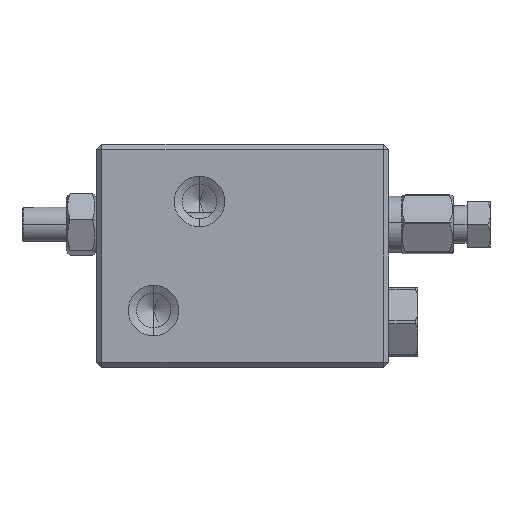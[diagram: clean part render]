
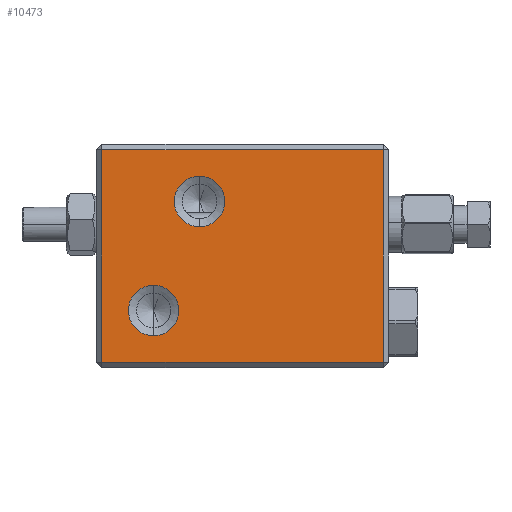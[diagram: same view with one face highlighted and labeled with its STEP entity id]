
A CAD part, left-side view. The second image highlights one B-rep face of the part: STEP entity #10473.
In plain terms, the highlighted planar face has unit normal (-1, 0, 0).
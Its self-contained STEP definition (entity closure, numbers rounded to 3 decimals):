
#90 = VERTEX_POINT ( 'NONE', #425 ) ;
#425 = CARTESIAN_POINT ( 'NONE',  ( -41., 15.5, 5.6 ) ) ;
#529 = ORIENTED_EDGE ( 'NONE', *, *, #7022, .F. ) ;
#924 = AXIS2_PLACEMENT_3D ( 'NONE', #20627, #5486, #2359 ) ;
#1355 = CARTESIAN_POINT ( 'NONE',  ( -41., 15.5, 14.4 ) ) ;
#1927 = VECTOR ( 'NONE', #21119, 1000. ) ;
#2329 = DIRECTION ( 'NONE',  ( 0., 0., 1. ) ) ;
#2359 = DIRECTION ( 'NONE',  ( 0., 0., -1. ) ) ;
#2510 = CIRCLE ( 'NONE', #3276, 4.4 ) ;
#3276 = AXIS2_PLACEMENT_3D ( 'NONE', #19664, #4718, #9610 ) ;
#3686 = CIRCLE ( 'NONE', #20469, 4.4 ) ;
#3885 = ORIENTED_EDGE ( 'NONE', *, *, #18063, .T. ) ;
#4037 = CARTESIAN_POINT ( 'NONE',  ( -41., -24.5, 39. ) ) ;
#4718 = DIRECTION ( 'NONE',  ( -1., 0., 0. ) ) ;
#5486 = DIRECTION ( 'NONE',  ( 1., 0., 0. ) ) ;
#5498 = CARTESIAN_POINT ( 'NONE',  ( -41., 15.5, 10. ) ) ;
#5655 = FACE_BOUND ( 'NONE', #11181, .T. ) ;
#6050 = DIRECTION ( 'NONE',  ( 0., 1., 0. ) ) ;
#6287 = AXIS2_PLACEMENT_3D ( 'NONE', #10536, #12200, #2329 ) ;
#6577 = ORIENTED_EDGE ( 'NONE', *, *, #12326, .T. ) ;
#6623 = LINE ( 'NONE', #4037, #12256 ) ;
#6841 = CARTESIAN_POINT ( 'NONE',  ( -41., 7.5, 33.4 ) ) ;
#6912 = CARTESIAN_POINT ( 'NONE',  ( -41., 24.5, 39. ) ) ;
#6984 = DIRECTION ( 'NONE',  ( 0., 0., -1. ) ) ;
#7022 = EDGE_CURVE ( 'NONE', #20990, #11988, #11848, .T. ) ;
#7102 = AXIS2_PLACEMENT_3D ( 'NONE', #5498, #15150, #18614 ) ;
#7354 = LINE ( 'NONE', #6912, #16883 ) ;
#8045 = CARTESIAN_POINT ( 'NONE',  ( -41., 25.5, 1. ) ) ;
#8721 = FACE_BOUND ( 'NONE', #12025, .T. ) ;
#8842 = PLANE ( 'NONE',  #924 ) ;
#9003 = VERTEX_POINT ( 'NONE', #16446 ) ;
#9591 = DIRECTION ( 'NONE',  ( -1., 0., 0. ) ) ;
#9610 = DIRECTION ( 'NONE',  ( 0., 0., 1. ) ) ;
#10473 = ADVANCED_FACE ( 'NONE', ( #10518, #8721, #5655 ), #8842, .F. ) ;
#10518 = FACE_OUTER_BOUND ( 'NONE', #11178, .T. ) ;
#10536 = CARTESIAN_POINT ( 'NONE',  ( -41., 7.5, 29. ) ) ;
#10672 = CARTESIAN_POINT ( 'NONE',  ( -41., 7.5, 24.6 ) ) ;
#11178 = EDGE_LOOP ( 'NONE', ( #6577, #19021, #11511, #3885 ) ) ;
#11181 = EDGE_LOOP ( 'NONE', ( #12539, #14893 ) ) ;
#11214 = LINE ( 'NONE', #8045, #1927 ) ;
#11315 = EDGE_CURVE ( 'NONE', #11988, #20990, #2510, .T. ) ;
#11338 = VERTEX_POINT ( 'NONE', #1355 ) ;
#11511 = ORIENTED_EDGE ( 'NONE', *, *, #18871, .T. ) ;
#11691 = ORIENTED_EDGE ( 'NONE', *, *, #11315, .F. ) ;
#11848 = CIRCLE ( 'NONE', #6287, 4.4 ) ;
#11988 = VERTEX_POINT ( 'NONE', #6841 ) ;
#12025 = EDGE_LOOP ( 'NONE', ( #11691, #529 ) ) ;
#12200 = DIRECTION ( 'NONE',  ( -1., 0., 0. ) ) ;
#12256 = VECTOR ( 'NONE', #17252, 1000. ) ;
#12326 = EDGE_CURVE ( 'NONE', #9003, #21081, #20299, .T. ) ;
#12539 = ORIENTED_EDGE ( 'NONE', *, *, #15554, .F. ) ;
#12585 = CARTESIAN_POINT ( 'NONE',  ( -41., 25.5, 38. ) ) ;
#12960 = CARTESIAN_POINT ( 'NONE',  ( -41., 24.5, 1. ) ) ;
#13914 = EDGE_CURVE ( 'NONE', #21081, #16270, #7354, .T. ) ;
#14893 = ORIENTED_EDGE ( 'NONE', *, *, #17870, .F. ) ;
#15150 = DIRECTION ( 'NONE',  ( -1., 0., 0. ) ) ;
#15554 = EDGE_CURVE ( 'NONE', #11338, #90, #3686, .T. ) ;
#15857 = VERTEX_POINT ( 'NONE', #20062 ) ;
#16101 = DIRECTION ( 'NONE',  ( 0., 0., 1. ) ) ;
#16270 = VERTEX_POINT ( 'NONE', #12960 ) ;
#16325 = CARTESIAN_POINT ( 'NONE',  ( -41., 15.5, 10. ) ) ;
#16446 = CARTESIAN_POINT ( 'NONE',  ( -41., -24.5, 38. ) ) ;
#16883 = VECTOR ( 'NONE', #6984, 1000. ) ;
#17252 = DIRECTION ( 'NONE',  ( 0., 0., 1. ) ) ;
#17353 = CARTESIAN_POINT ( 'NONE',  ( -41., 24.5, 38. ) ) ;
#17870 = EDGE_CURVE ( 'NONE', #90, #11338, #21066, .T. ) ;
#18000 = VECTOR ( 'NONE', #6050, 1000. ) ;
#18063 = EDGE_CURVE ( 'NONE', #15857, #9003, #6623, .T. ) ;
#18614 = DIRECTION ( 'NONE',  ( 0., 0., 1. ) ) ;
#18871 = EDGE_CURVE ( 'NONE', #16270, #15857, #11214, .T. ) ;
#19021 = ORIENTED_EDGE ( 'NONE', *, *, #13914, .T. ) ;
#19664 = CARTESIAN_POINT ( 'NONE',  ( -41., 7.5, 29. ) ) ;
#20062 = CARTESIAN_POINT ( 'NONE',  ( -41., -24.5, 1. ) ) ;
#20299 = LINE ( 'NONE', #12585, #18000 ) ;
#20469 = AXIS2_PLACEMENT_3D ( 'NONE', #16325, #9591, #16101 ) ;
#20627 = CARTESIAN_POINT ( 'NONE',  ( -41., 25.5, 39. ) ) ;
#20990 = VERTEX_POINT ( 'NONE', #10672 ) ;
#21066 = CIRCLE ( 'NONE', #7102, 4.4 ) ;
#21081 = VERTEX_POINT ( 'NONE', #17353 ) ;
#21119 = DIRECTION ( 'NONE',  ( 0., -1., 0. ) ) ;
